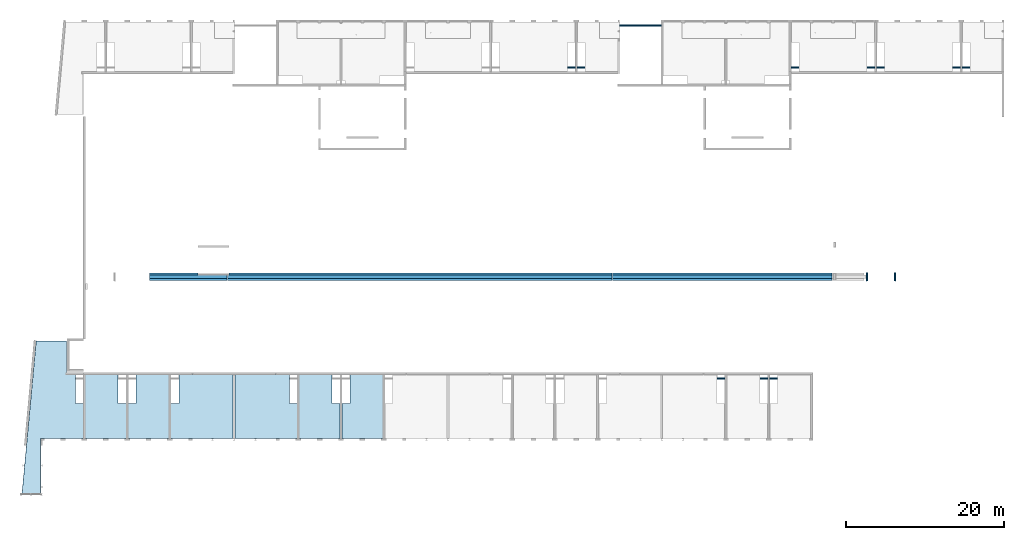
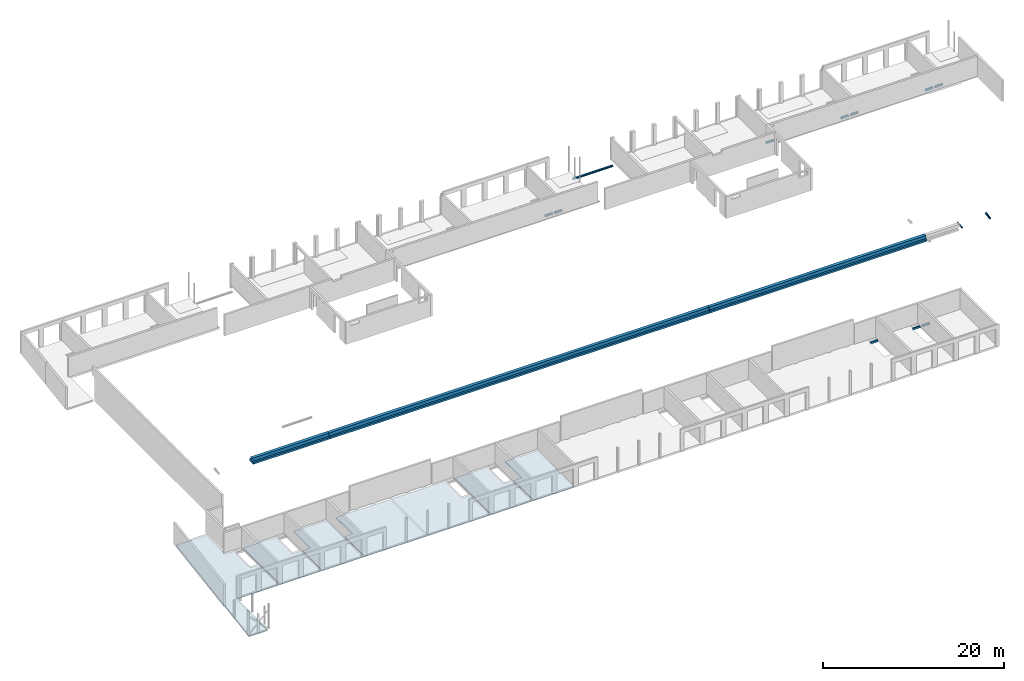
# One storey, part 11 of 22: 16 beams, 7 slabs.
"""IFC2X3 building model written with IfcOpenShell, lengths in millimetres."""

from ifc_helpers import new_model, entity, si_unit, converted_unit, derived_unit, direction, frame, frame_2d, origin, place, context, subcontext, project, spatial, polyline, circle_curve, parameter, trimmed, segment, composite_curve, rectangle, outline, extrude, faceted_brep, material, layer, layer_set, layer_usage, type_object, element, save


model = new_model("IFC2X3")

# Units and contexts
model_context = context("Model", 3, precision=0.01, world=origin(), true_north=direction((6.12303176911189e-17, 1.0)))
body_context = subcontext(model_context, "Body", "Model", "MODEL_VIEW")
ifc_project = project(units=[si_unit("LENGTHUNIT", "METRE", prefix="MILLI"), si_unit("AREAUNIT", "SQUARE_METRE"), si_unit("VOLUMEUNIT", "CUBIC_METRE"), converted_unit("PLANEANGLEUNIT", "DEGREE", entity("IfcRatioMeasure", 0.0174532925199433), si_unit("PLANEANGLEUNIT", "RADIAN"), dimensions=[0, 0, 0, 0, 0, 0, 0]), si_unit("MASSUNIT", "GRAM", prefix="KILO"), derived_unit("MASSDENSITYUNIT", [(si_unit("MASSUNIT", "GRAM", prefix="KILO"), 1), (si_unit("LENGTHUNIT", "METRE"), -3)]), si_unit("TIMEUNIT", "SECOND"), si_unit("FREQUENCYUNIT", "HERTZ"), si_unit("THERMODYNAMICTEMPERATUREUNIT", "DEGREE_CELSIUS"), derived_unit("THERMALTRANSMITTANCEUNIT", [(si_unit("MASSUNIT", "GRAM", prefix="KILO"), 1), (si_unit("THERMODYNAMICTEMPERATUREUNIT", "KELVIN"), -1), (si_unit("TIMEUNIT", "SECOND"), -3)]), derived_unit("VOLUMETRICFLOWRATEUNIT", [(si_unit("LENGTHUNIT", "METRE"), 3), (si_unit("TIMEUNIT", "SECOND"), -1)]), si_unit("ELECTRICCURRENTUNIT", "AMPERE"), si_unit("ELECTRICVOLTAGEUNIT", "VOLT"), si_unit("POWERUNIT", "WATT"), si_unit("FORCEUNIT", "NEWTON", prefix="KILO"), si_unit("ILLUMINANCEUNIT", "LUX"), si_unit("LUMINOUSFLUXUNIT", "LUMEN"), si_unit("LUMINOUSINTENSITYUNIT", "CANDELA"), derived_unit("USERDEFINED", [(si_unit("MASSUNIT", "GRAM", prefix="KILO"), -1), (si_unit("LENGTHUNIT", "METRE"), -2), (si_unit("TIMEUNIT", "SECOND"), 3), (si_unit("LUMINOUSFLUXUNIT", "LUMEN"), 1)]), derived_unit("LINEARVELOCITYUNIT", [(si_unit("LENGTHUNIT", "METRE"), 1), (si_unit("TIMEUNIT", "SECOND"), -1)]), si_unit("PRESSUREUNIT", "PASCAL"), derived_unit("USERDEFINED", [(si_unit("LENGTHUNIT", "METRE"), -2), (si_unit("MASSUNIT", "GRAM", prefix="KILO"), 1), (si_unit("TIMEUNIT", "SECOND"), -2)])], contexts=[model_context])

# Site, building, storey
site_placement = place(None, origin())
site = spatial("IfcSite", under=ifc_project, at=site_placement, Name="Default", CompositionType="ELEMENT")
building_placement = place(site_placement, origin())
building = spatial("IfcBuilding", under=site, at=building_placement, Name="niet gebruiken", CompositionType="ELEMENT")
storey_placement = place(building_placement, frame((0.0, 0.0, 9630.0)))
storey = spatial("IfcBuildingStorey", under=building, at=storey_placement, Name="03 derde verdieping", CompositionType="ELEMENT", Elevation=9630.00000000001)

# Beams
ifc_material_1 = material(Name="NLRS_h2_staal")
beam_type_1 = type_object("IfcBeamType", Name="NLRS_28.11_SF_WPB_stalen ligger hoekprofiel gelijkzijdig_gen:ligger gelijzijdig hoekprofiel LEQU_150x150x15", PredefinedType="BEAM")
beam_1_placement = place(storey_placement, frame((110482.5, 21342.4825485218, 1518.83356166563), z_axis=(0.0, -0.123826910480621, 0.992303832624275), x_axis=(0.0, -0.992303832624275, -0.123826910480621)))
element("IfcBeam", 1, at=beam_1_placement, inside=storey, type_object=beam_type_1, material=ifc_material_1, Name="NLRS_28.11_SF_WPB_stalen ligger hoekprofiel gelijkzijdig_gen:ligger gelijzijdig hoekprofiel LEQU_150x150x15", ObjectType="NLRS_28.11_SF_WPB_stalen ligger hoekprofiel gelijkzijdig_gen:ligger gelijzijdig hoekprofiel LEQU_150x150x15", context=body_context, shape_type="SweptSolid", body=[
    extrude(outline(composite_curve([segment(polyline([(49.666666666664, -93.3333333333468), (56.6666666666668, -93.3333333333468)]), True, "CONTINUOUS"), segment(polyline([(56.6666666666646, -93.3333333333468), (56.6666666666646, 56.6666666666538)]), True, "CONTINUOUS"), segment(polyline([(56.6666666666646, 56.6666666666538), (-93.3333333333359, 56.6666666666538)]), True, "CONTINUOUS"), segment(polyline([(-93.3333333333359, 56.6666666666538), (-93.3333333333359, 49.6666666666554)]), True, "CONTINUOUS"), segment(trimmed(circle_curve(frame_2d((-85.3333333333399, 49.6666666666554), x_axis=(-1.0, 0.0)), 7.99999999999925), [parameter(0.0)], [parameter(90.0000000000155)], True, "PARAMETER"), True, "CONTINUOUS"), segment(polyline([(-85.3333333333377, 41.6666666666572), (25.666666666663, 41.6666666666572)]), True, "CONTINUOUS"), segment(trimmed(circle_curve(frame_2d((25.666666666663, 25.6666666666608), x_axis=(0.0, 1.0)), 16.0000000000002), [parameter(270.0)], [parameter(0.0)], True, "PARAMETER"), False, "CONTINUOUS"), segment(polyline([(41.6666666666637, 25.6666666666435), (41.6666666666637, -85.3333333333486)]), True, "CONTINUOUS"), segment(trimmed(circle_curve(frame_2d((49.6666666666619, -85.3333333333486), x_axis=(-1.0, 0.0)), 7.99999999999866), [parameter(0.0)], [parameter(90.0000000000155)], True, "PARAMETER"), True, "CONTINUOUS")], self_intersect=False)), frame((0.0, -14.1666666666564, -93.3333333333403), z_axis=(1.0, 0.0, 0.0), x_axis=(0.0, 0.0, -1.0)), (0.0, 0.0, 1.0), 1045.0),
])
beam_2_placement = place(storey_placement, frame((106867.5, 21342.4825485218, 1518.83356166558), z_axis=(0.0, -0.123826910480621, 0.992303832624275), x_axis=(0.0, -0.992303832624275, -0.123826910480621)))
element("IfcBeam", 2, at=beam_2_placement, inside=storey, type_object=beam_type_1, material=ifc_material_1, Name="NLRS_28.11_SF_WPB_stalen ligger hoekprofiel gelijkzijdig_gen:ligger gelijzijdig hoekprofiel LEQU_150x150x15", ObjectType="NLRS_28.11_SF_WPB_stalen ligger hoekprofiel gelijkzijdig_gen:ligger gelijzijdig hoekprofiel LEQU_150x150x15", context=body_context, shape_type="SweptSolid", body=[
    extrude(outline(composite_curve([segment(polyline([(-93.3333333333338, -56.6666666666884), (56.6666666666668, -56.6666666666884)]), True, "CONTINUOUS"), segment(polyline([(56.6666666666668, -56.6666666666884), (56.6666666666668, 93.3333333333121)]), True, "CONTINUOUS"), segment(polyline([(56.6666666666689, 93.3333333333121), (49.6666666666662, 93.3333333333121)]), True, "CONTINUOUS"), segment(trimmed(circle_curve(frame_2d((49.666666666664, 85.3333333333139), x_axis=(0.0, 1.0)), 7.99999999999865), [parameter(0.0)], [parameter(90.0000000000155)], True, "PARAMETER"), True, "CONTINUOUS"), segment(polyline([(41.6666666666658, 85.3333333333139), (41.6666666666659, -25.6666666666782)]), True, "CONTINUOUS"), segment(trimmed(circle_curve(frame_2d((25.6666666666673, -25.6666666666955), x_axis=(1.0, 0.0)), 16.0000000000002), [parameter(270.0)], [parameter(0.0)], True, "PARAMETER"), False, "CONTINUOUS"), segment(polyline([(25.6666666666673, -41.6666666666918), (-85.3333333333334, -41.6666666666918)]), True, "CONTINUOUS"), segment(trimmed(circle_curve(frame_2d((-85.3333333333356, -49.66666666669), x_axis=(0.0, 1.0)), 7.99999999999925), [parameter(0.0)], [parameter(90.0000000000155)], True, "PARAMETER"), True, "CONTINUOUS"), segment(polyline([(-93.3333333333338, -49.66666666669), (-93.3333333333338, -56.6666666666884)]), True, "CONTINUOUS")], self_intersect=False)), frame((0.0, 14.166666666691, -93.3333333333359), z_axis=(1.0, 0.0, 0.0), x_axis=(0.0, 0.0, -1.0)), (0.0, 0.0, 1.0), 1045.0),
])
ifc_material_2 = material(Name="NLRS_f2_beton prefab")
beam_type_2 = type_object("IfcBeamType", Name="NLRS_28.11_SF_WPB_prefabbeton balk dubbele sponning_gen:900x660/250x410/250x410", PredefinedType="BEAM")
beam_3_placement = place(storey_placement, frame((74750.0, 20846.0, 1610.0)))
element("IfcBeam", 3, at=beam_3_placement, inside=storey, type_object=beam_type_2, material=ifc_material_2, Name="NLRS_28.11_SF_WPB_prefabbeton balk dubbele sponning_gen:900x660/250x410/250x410", ObjectType="NLRS_28.11_SF_WPB_prefabbeton balk dubbele sponning_gen:900x660/250x410/250x410", context=body_context, shape_type="SweptSolid", body=[
    extrude(outline(polyline([(40.0, -450.0), (290.0, -450.0), (290.0, 450.0), (40.0, 450.0), (40.0, 200.0), (-370.0, 200.0), (-370.0, -200.0), (40.0, -200.0), (40.0, -450.0)])), frame((0.0, 0.0, -370.0), z_axis=(1.0, 0.0, 0.0), x_axis=(0.0, 0.0, -1.0)), (0.0, 0.0, 1.0), 27705.0000000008),
])
beam_4_placement = place(storey_placement, frame((26150.0, 20396.0, 950.0)))
element("IfcBeam", 4, at=beam_4_placement, inside=storey, type_object=beam_type_2, material=ifc_material_2, Name="NLRS_28.11_SF_WPB_prefabbeton balk dubbele sponning_gen:900x660/250x410/250x410", ObjectType="NLRS_28.11_SF_WPB_prefabbeton balk dubbele sponning_gen:900x660/250x410/250x410", context=body_context, shape_type="Brep", body=[
    faceted_brep([(0.0, 650.0, 660.0), (0.0, 650.0, 0.0), (0.0, 0.0, 0.0), (0.0, 0.0, 250.0), (0.0, 250.0, 250.0), (0.0, 250.0, 660.0), (48580.0, 650.0, 660.0), (48580.0, 250.0, 660.0), (48580.0, 250.0, 250.0), (48580.0, 0.0, 250.0), (48580.0, 0.0, 0.0), (48580.0, 900.0, 0.0), (48580.0, 900.0, 250.0), (48580.0, 650.0, 250.0), (200.0, 250.0, 660.0), (44050.0, 250.0, 660.0), (220.0, 650.0, 250.0), (220.0, 650.0, 0.0), (220.0, 900.0, 250.0), (220.0, 900.0, 0.0)], [[[0, 1, 2, 3, 4, 5]], [[6, 7, 8, 9, 10, 11, 12, 13]], [[6, 0, 5, 14, 15, 7]], [[3, 2, 10, 9]], [[6, 13, 16, 17, 1, 0]], [[13, 12, 18, 16]], [[5, 4, 8, 7, 15, 14]], [[4, 3, 9, 8]], [[12, 11, 19, 18]], [[11, 10, 2, 1, 17, 19]], [[17, 16, 18, 19]]]),
])
beam_5_placement = place(storey_placement, frame((16345.0, 20396.0, 950.0)))
element("IfcBeam", 5, at=beam_5_placement, inside=storey, type_object=beam_type_2, material=ifc_material_2, Name="NLRS_28.11_SF_WPB_prefabbeton balk dubbele sponning_gen:900x660/250x410/250x410", ObjectType="NLRS_28.11_SF_WPB_prefabbeton balk dubbele sponning_gen:900x660/250x410/250x410", context=body_context, shape_type="Brep", body=[
    faceted_brep([(0.0, 650.0, 660.0), (0.0, 650.0, 250.0), (0.0, 900.0, 250.0), (0.0, 900.0, 0.0), (0.0, 0.0, 0.0), (0.0, 0.0, 250.0), (0.0, 250.0, 250.0), (0.0, 250.0, 660.0), (9785.0, 650.0, 0.0), (9785.0, 650.0, 660.0), (9785.0, 250.0, 660.0), (9785.0, 250.0, 250.0), (9785.0, 0.0, 250.0), (9785.0, 0.0, 0.0), (5255.0, 250.0, 660.0), (6105.0, 650.0, 0.0), (6105.0, 650.0, 250.0), (6105.0, 900.0, 250.0), (6105.0, 900.0, 0.0)], [[[0, 1, 2, 3, 4, 5, 6, 7]], [[8, 9, 10, 11, 12, 13]], [[9, 0, 7, 14, 10]], [[5, 4, 13, 12]], [[1, 0, 9, 8, 15, 16]], [[2, 1, 16, 17]], [[7, 6, 11, 10, 14]], [[6, 5, 12, 11]], [[3, 2, 17, 18]], [[4, 3, 18, 15, 8, 13]], [[16, 15, 18, 17]]]),
])
beam_type_3 = type_object("IfcBeamType", Name="NLRS_28.11_SF_WPB_stalen ligger hoekprofiel gelijkzijdig_gen:ligger gelijzijdig hoekprofiel LEQU_200x200x15", PredefinedType="BEAM")
beam_6_placement = place(storey_placement, frame((75700.0, 52547.0, -850.0)))
element("IfcBeam", 6, at=beam_6_placement, inside=storey, type_object=beam_type_3, material=ifc_material_1, Name="NLRS_28.11_SF_WPB_stalen ligger hoekprofiel gelijkzijdig_gen:ligger gelijzijdig hoekprofiel LEQU_200x200x15", ObjectType="NLRS_28.11_SF_WPB_stalen ligger hoekprofiel gelijkzijdig_gen:ligger gelijzijdig hoekprofiel LEQU_200x200x15", context=body_context, shape_type="SweptSolid", body=[
    extrude(outline(composite_curve([segment(polyline([(66.3333333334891, -126.666666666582), (73.3333333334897, -126.666666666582)]), True, "CONTINUOUS"), segment(polyline([(73.3333333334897, -126.666666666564), (73.3333333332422, 73.3333333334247)]), True, "CONTINUOUS"), segment(polyline([(73.3333333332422, 73.3333333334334), (-126.666666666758, 73.3333333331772)]), True, "CONTINUOUS"), segment(polyline([(-126.666666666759, 73.3333333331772), (-126.66666666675, 66.3333333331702)]), True, "CONTINUOUS"), segment(trimmed(circle_curve(frame_2d((-118.66666666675, 66.3333333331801), x_axis=(-1.0, 0.0)), 7.99999999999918), [parameter(0.0)], [parameter(90.0000000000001)], True, "PARAMETER"), True, "CONTINUOUS"), segment(polyline([(-118.66666666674, 58.3333333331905), (42.3333333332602, 58.3333333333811)]), True, "CONTINUOUS"), segment(trimmed(circle_curve(frame_2d((42.3333333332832, 42.3333333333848), x_axis=(0.0, 1.0)), 15.9999999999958), [parameter(269.999999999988)], [parameter(0.0)], True, "PARAMETER"), False, "CONTINUOUS"), segment(polyline([(58.3333333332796, 42.3333333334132), (58.3333333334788, -118.666666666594)]), True, "CONTINUOUS"), segment(trimmed(circle_curve(frame_2d((66.3333333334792, -118.666666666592), x_axis=(-1.0, 0.0)), 7.99999999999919), [parameter(0.0)], [parameter(90.0000000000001)], True, "PARAMETER"), True, "CONTINUOUS")], self_intersect=False)), frame((0.0, 19.1666666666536, 73.3333333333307), z_axis=(1.0, 0.0, 0.0), x_axis=(0.0, 0.0, -1.0)), (0.0, 0.0, 1.0), 5200.0),
])
ifc_material_3 = material(Name="NLRS_f2_beton ihwg")
beam_type_4 = type_object("IfcBeamType", Name="NLRS_28.11_SF_WPB_betonbalk ihwg recht_gen:180x250", PredefinedType="BEAM")
for number, where, name in (
    (7, (69105.0, 47236.0, -90.0), "NLRS_28.11_SF_WPB_betonbalk ihwg recht_gen:180x250"),
    (8, (70325.0, 47236.0, -90.0), "NLRS_28.11_SF_WPB_betonbalk ihwg recht_gen:180x250"),
):
    element("IfcBeam", number, at=place(storey_placement, frame(where)), inside=storey, type_object=beam_type_4, material=ifc_material_3, Name=name, ObjectType="NLRS_28.11_SF_WPB_betonbalk ihwg recht_gen:180x250", context=body_context, shape_type="SweptSolid", body=[
        extrude(rectangle(XDim=249.999999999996, YDim=180.000000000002, at=frame_2d((-5.40012479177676e-13, 4.33431068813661e-12), x_axis=(1.0, 0.0))), frame((0.0, 0.0, -125.0), z_axis=(1.0, 0.0, 0.0), x_axis=(0.0, 0.0, -1.0)), (0.0, 0.0, 1.0), 970.000000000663),
    ])
for number, where, name in (
    (9, (97325.0, 47236.0, -90.0), "NLRS_28.11_SF_WPB_betonbalk ihwg recht_gen:180x250"),
    (10, (106905.0, 47236.0, -90.0), "NLRS_28.11_SF_WPB_betonbalk ihwg recht_gen:180x250"),
    (11, (108125.0, 47236.0, -90.0), "NLRS_28.11_SF_WPB_betonbalk ihwg recht_gen:180x250"),
    (12, (117705.0, 47236.0, -90.0), "NLRS_28.11_SF_WPB_betonbalk ihwg recht_gen:180x250"),
    (13, (118925.0, 47236.0, -90.0), "NLRS_28.11_SF_WPB_betonbalk ihwg recht_gen:180x250"),
):
    element("IfcBeam", number, at=place(storey_placement, frame(where)), inside=storey, type_object=beam_type_4, material=ifc_material_3, Name=name, ObjectType="NLRS_28.11_SF_WPB_betonbalk ihwg recht_gen:180x250", context=body_context, shape_type="SweptSolid", body=[
        extrude(rectangle(XDim=249.999999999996, YDim=180.000000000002, at=frame_2d((-5.40012479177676e-13, -4.33431068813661e-12), x_axis=(1.0, 0.0))), frame((0.0, 0.0, -125.0), z_axis=(1.0, 0.0, 0.0), x_axis=(0.0, 0.0, -1.0)), (0.0, 0.0, 1.0), 970.000000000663),
    ])
for number, where, name in (
    (14, (88005.0, 8006.0, -90.0), "NLRS_28.11_SF_WPB_betonbalk ihwg recht_gen:180x250"),
    (15, (93405.0, 8006.0, -90.0), "NLRS_28.11_SF_WPB_betonbalk ihwg recht_gen:180x250"),
    (16, (94625.0, 8006.0, -90.0), "NLRS_28.11_SF_WPB_betonbalk ihwg recht_gen:180x250"),
):
    element("IfcBeam", number, at=place(storey_placement, frame(where)), inside=storey, type_object=beam_type_4, material=ifc_material_3, Name=name, ObjectType="NLRS_28.11_SF_WPB_betonbalk ihwg recht_gen:180x250", context=body_context, shape_type="SweptSolid", body=[
        extrude(rectangle(XDim=249.999999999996, YDim=180.0, at=frame_2d((-5.40012479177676e-13, 0.0), x_axis=(1.0, 0.0))), frame((0.0, 0.0, -125.0), z_axis=(1.0, 0.0, 0.0), x_axis=(0.0, 0.0, -1.0)), (0.0, 0.0, 1.0), 970.000000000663),
    ])

# Slabs
ifc_layer = layer(ifc_material_2, 70.0)
ifc_layer_set = layer_set([ifc_layer], Name="Floor:NLRS_23.21_FL_breedplaatschil d=70_gen")
ifc_layer_usage_1 = layer_usage(ifc_layer_set, "AXIS3", "POSITIVE", 0.0)
slab_1_placement = place(storey_placement, origin())
element("IfcSlab", 17, at=slab_1_placement, inside=storey, material=ifc_layer_usage_1, Name="Floor:NLRS_23.21_FL_breedplaatschil d=70_gen", ObjectType="Floor:NLRS_23.21_FL_breedplaatschil d=70_gen", PredefinedType="FLOOR", context=body_context, shape_type="SweptSolid", body=[
    extrude(outline(polyline([(-4164.0, -3120.0), (3932.0, -3120.0), (3932.0, 1050.0), (232.0, 1050.0), (232.0, 2070.0), (-4164.0, 2070.0), (-4164.0, -3120.0)])), frame((11325.0, 4584.0, -270.0), z_axis=(0.0, 0.0, -1.0), x_axis=(0.0, 1.0, 0.0)), (0.0, 0.0, 1.0), 70.0000000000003),
])
ifc_layer_usage_2 = layer_usage(ifc_layer_set, "AXIS3", "POSITIVE", 0.0)
slab_2_placement = place(storey_placement, origin())
element("IfcSlab", 18, at=slab_2_placement, inside=storey, material=ifc_layer_usage_2, Name="Floor:NLRS_23.21_FL_breedplaatschil d=70_gen", ObjectType="Floor:NLRS_23.21_FL_breedplaatschil d=70_gen", PredefinedType="FLOOR", context=body_context, shape_type="SweptSolid", body=[
    extrude(outline(polyline([(-4164.0, -2070.0), (232.0, -2070.0), (232.0, -1050.0), (3932.0, -1050.0), (3932.0, 3120.0), (-4164.0, 3120.0), (-4164.0, -2070.0)])), frame((15675.0, 4584.0, -270.0), z_axis=(0.0, 0.0, -1.0), x_axis=(0.0, 1.0, 0.0)), (0.0, 0.0, 1.0), 70.0000000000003),
])
ifc_layer_usage_3 = layer_usage(ifc_layer_set, "AXIS3", "POSITIVE", 0.0)
slab_3_placement = place(storey_placement, origin())
element("IfcSlab", 19, at=slab_3_placement, inside=storey, material=ifc_layer_usage_3, Name="Floor:NLRS_23.21_FL_breedplaatschil d=70_gen", ObjectType="Floor:NLRS_23.21_FL_breedplaatschil d=70_gen", PredefinedType="FLOOR", context=body_context, shape_type="SweptSolid", body=[
    extrude(outline(polyline([(-4164.0, -2970.0), (232.0, -2970.0), (232.0, -1950.0), (3932.0, -1950.0), (3932.0, 4920.0), (-4164.0, 4920.0), (-4164.0, -2970.0)])), frame((21975.0, 4584.0, -270.0), z_axis=(0.0, 0.0, -1.0), x_axis=(0.0, 1.0, 0.0)), (0.0, 0.0, 1.0), 70.0000000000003),
])
ifc_layer_usage_4 = layer_usage(ifc_layer_set, "AXIS3", "POSITIVE", 0.0)
slab_4_placement = place(storey_placement, origin())
element("IfcSlab", 20, at=slab_4_placement, inside=storey, material=ifc_layer_usage_4, Name="Floor:NLRS_23.21_FL_breedplaatschil d=70_gen", ObjectType="Floor:NLRS_23.21_FL_breedplaatschil d=70_gen", PredefinedType="FLOOR", context=body_context, shape_type="SweptSolid", body=[
    extrude(outline(polyline([(-4164.0, -4920.0), (3932.0, -4920.0), (3932.0, 1950.0), (232.0, 1950.0), (232.0, 2970.0), (-4164.0, 2970.0), (-4164.0, -4920.0)])), frame((32025.0, 4584.0, -270.0), z_axis=(0.0, 0.0, -1.0), x_axis=(0.0, 1.0, 0.0)), (0.0, 0.0, 1.0), 70.0000000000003),
])
ifc_layer_usage_5 = layer_usage(ifc_layer_set, "AXIS3", "POSITIVE", 0.0)
slab_5_placement = place(storey_placement, origin())
element("IfcSlab", 21, at=slab_5_placement, inside=storey, material=ifc_layer_usage_5, Name="Floor:NLRS_23.21_FL_breedplaatschil d=70_gen", ObjectType="Floor:NLRS_23.21_FL_breedplaatschil d=70_gen", PredefinedType="FLOOR", context=body_context, shape_type="SweptSolid", body=[
    extrude(outline(polyline([(-4164.0, -3120.0), (3932.0, -3120.0), (3932.0, 1050.0), (232.0, 1050.0), (232.0, 2070.0), (-4164.0, 2070.0), (-4164.0, -3120.0)])), frame((38325.0, 4584.0, -270.0), z_axis=(0.0, 0.0, -1.0), x_axis=(0.0, 1.0, 0.0)), (0.0, 0.0, 1.0), 70.0000000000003),
])
ifc_layer_usage_6 = layer_usage(ifc_layer_set, "AXIS3", "POSITIVE", 0.0)
slab_6_placement = place(storey_placement, origin())
element("IfcSlab", 22, at=slab_6_placement, inside=storey, material=ifc_layer_usage_6, Name="Floor:NLRS_23.21_FL_breedplaatschil d=70_gen", ObjectType="Floor:NLRS_23.21_FL_breedplaatschil d=70_gen", PredefinedType="FLOOR", context=body_context, shape_type="SweptSolid", body=[
    extrude(outline(polyline([(-4164.0, -2070.0), (232.0, -2070.0), (232.0, -1050.0), (3932.0, -1050.0), (3932.0, 3120.0), (-4164.0, 3120.0), (-4164.0, -2070.0)])), frame((42675.0, 4584.0, -270.0), z_axis=(0.0, 0.0, -1.0), x_axis=(0.0, 1.0, 0.0)), (0.0, 0.0, 1.0), 70.0000000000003),
])
ifc_layer_usage_7 = layer_usage(ifc_layer_set, "AXIS3", "POSITIVE", 0.0)
slab_7_placement = place(storey_placement, origin())
element("IfcSlab", 23, at=slab_7_placement, inside=storey, material=ifc_layer_usage_7, Name="Floor:NLRS_23.21_FL_breedplaatschil d=70_gen", ObjectType="Floor:NLRS_23.21_FL_breedplaatschil d=70_gen", PredefinedType="FLOOR", context=body_context, shape_type="SweptSolid", body=[
    extrude(outline(polyline([(2470.07976937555, -11331.5), (4822.75788408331, -11331.5), (3036.4444221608, 7939.50000000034), (-824.92023062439, 7939.50000000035), (-824.920230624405, 3954.5), (-704.920230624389, 3954.5), (-704.920230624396, 3744.5), (-1924.92023062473, 3744.5), (-1924.92023062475, 44.4999999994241), (-2944.92023062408, 44.4999999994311), (-2944.92023062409, -4351.49999999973), (2470.07976937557, -4351.49999999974), (2470.07976937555, -11331.5)])), frame((5050.07976937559, 4771.50000000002, -270.0), z_axis=(0.0, 0.0, -1.0), x_axis=(-1.0, 0.0, 0.0)), (0.0, 0.0, 1.0), 70.0000000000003),
])

save(model, "model.ifc")
